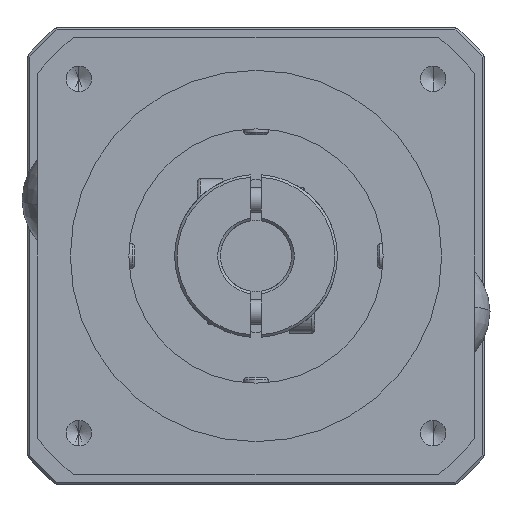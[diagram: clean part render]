
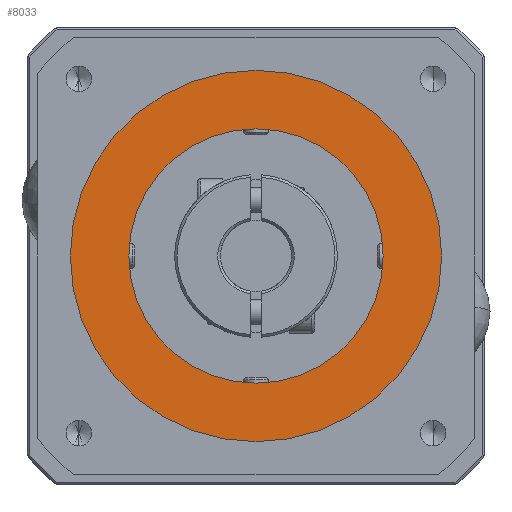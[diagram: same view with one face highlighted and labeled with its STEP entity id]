
A CAD part, left-side view. The second image highlights one B-rep face of the part: STEP entity #8033.
In plain terms, the highlighted planar face has unit normal (-1, 0, 0) as drawn and (0, 0, 1) by its records, which use the part's own axes.
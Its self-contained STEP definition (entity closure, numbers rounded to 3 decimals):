
#108 = AXIS2_PLACEMENT_3D ( 'NONE', #2031, #6876, #2778 ) ;
#273 = CARTESIAN_POINT ( 'NONE',  ( 36.5, 0., 36.5 ) ) ;
#305 = CIRCLE ( 'NONE', #108, 36.5 ) ;
#403 = DIRECTION ( 'NONE',  ( 1., 0., 0. ) ) ;
#421 = CARTESIAN_POINT ( 'NONE',  ( 0., 0., 36.5 ) ) ;
#436 = CIRCLE ( 'NONE', #1186, 25. ) ;
#468 = ORIENTED_EDGE ( 'NONE', *, *, #3318, .F. ) ;
#1084 = EDGE_CURVE ( 'NONE', #7932, #4697, #6161, .T. ) ;
#1183 = DIRECTION ( 'NONE',  ( 1., 0., 0. ) ) ;
#1186 = AXIS2_PLACEMENT_3D ( 'NONE', #421, #5462, #1183 ) ;
#1648 = EDGE_LOOP ( 'NONE', ( #6574, #468 ) ) ;
#1657 = AXIS2_PLACEMENT_3D ( 'NONE', #4800, #4932, #4960 ) ;
#1872 = PLANE ( 'NONE',  #6716 ) ;
#2030 = EDGE_LOOP ( 'NONE', ( #3479, #8842 ) ) ;
#2031 = CARTESIAN_POINT ( 'NONE',  ( 0., 0., 36.5 ) ) ;
#2563 = CARTESIAN_POINT ( 'NONE',  ( -36.5, 0., 36.5 ) ) ;
#2778 = DIRECTION ( 'NONE',  ( 1., 0., 0. ) ) ;
#3072 = VERTEX_POINT ( 'NONE', #3792 ) ;
#3318 = EDGE_CURVE ( 'NONE', #3072, #5532, #6966, .T. ) ;
#3479 = ORIENTED_EDGE ( 'NONE', *, *, #1084, .T. ) ;
#3792 = CARTESIAN_POINT ( 'NONE',  ( -25., 0., 36.5 ) ) ;
#4032 = DIRECTION ( 'NONE',  ( 0., 0., 1. ) ) ;
#4419 = CARTESIAN_POINT ( 'NONE',  ( 25., 0., 36.5 ) ) ;
#4697 = VERTEX_POINT ( 'NONE', #2563 ) ;
#4766 = DIRECTION ( 'NONE',  ( 0., 0., 1. ) ) ;
#4800 = CARTESIAN_POINT ( 'NONE',  ( 0., 0., 36.5 ) ) ;
#4932 = DIRECTION ( 'NONE',  ( 0., 0., 1. ) ) ;
#4960 = DIRECTION ( 'NONE',  ( 1., 0., 0. ) ) ;
#5219 = EDGE_CURVE ( 'NONE', #5532, #3072, #436, .T. ) ;
#5253 = FACE_BOUND ( 'NONE', #1648, .T. ) ;
#5462 = DIRECTION ( 'NONE',  ( 0., 0., 1. ) ) ;
#5481 = AXIS2_PLACEMENT_3D ( 'NONE', #8031, #4032, #8690 ) ;
#5532 = VERTEX_POINT ( 'NONE', #4419 ) ;
#6033 = EDGE_CURVE ( 'NONE', #4697, #7932, #305, .T. ) ;
#6161 = CIRCLE ( 'NONE', #1657, 36.5 ) ;
#6574 = ORIENTED_EDGE ( 'NONE', *, *, #5219, .F. ) ;
#6716 = AXIS2_PLACEMENT_3D ( 'NONE', #7420, #4766, #403 ) ;
#6876 = DIRECTION ( 'NONE',  ( 0., 0., 1. ) ) ;
#6966 = CIRCLE ( 'NONE', #5481, 25. ) ;
#7420 = CARTESIAN_POINT ( 'NONE',  ( 0., 0., 36.5 ) ) ;
#7932 = VERTEX_POINT ( 'NONE', #273 ) ;
#8031 = CARTESIAN_POINT ( 'NONE',  ( 0., 0., 36.5 ) ) ;
#8033 = ADVANCED_FACE ( 'NONE', ( #5253, #8582 ), #1872, .T. ) ;
#8582 = FACE_OUTER_BOUND ( 'NONE', #2030, .T. ) ;
#8690 = DIRECTION ( 'NONE',  ( 1., 0., 0. ) ) ;
#8842 = ORIENTED_EDGE ( 'NONE', *, *, #6033, .T. ) ;
